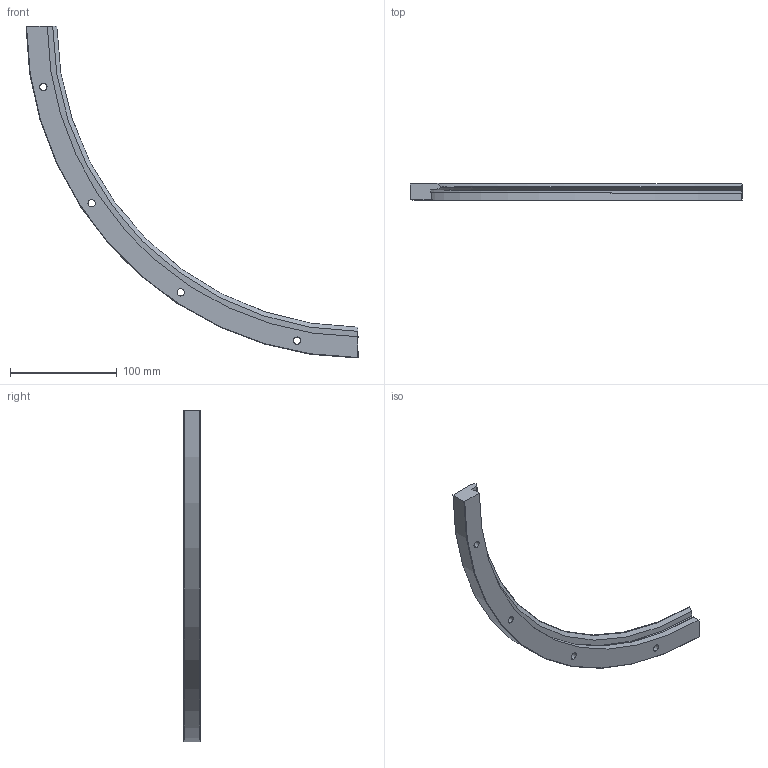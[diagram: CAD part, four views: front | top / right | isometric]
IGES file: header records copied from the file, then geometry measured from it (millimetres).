
Start section: 3D InterOp IGES (v. 2020 1.0.1), Spatial Corp. Copyright (c) 1999-2017.
Global section: file name: rim_627_r90.igs; native system: Spatial Corp.; preprocessor: 3D InterOp ACIS/IGES; author: TraceParts; organization: TraceParts S.A.; date: 20220624.063140; units: millimetre
Bounding box: 311.74 x 15.5 x 311.74 mm (x, y, z)
Surface area: 42213.6 mm2 (no closed solid volume)
Topology: 0 solids, 0 shells, 35 faces, 174 edges, 174 vertices
Faces by surface type: revolution 25, extrusion 10
